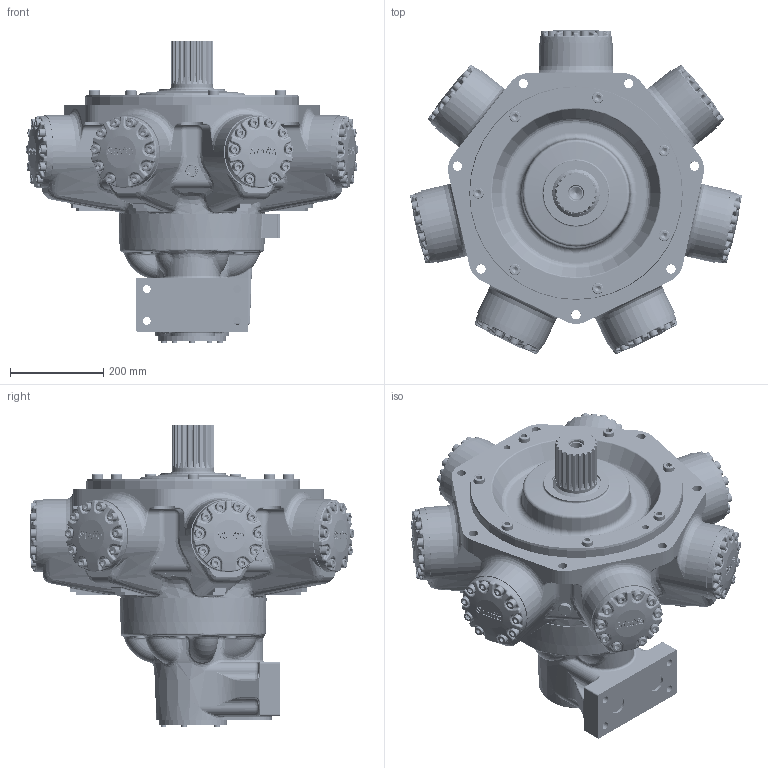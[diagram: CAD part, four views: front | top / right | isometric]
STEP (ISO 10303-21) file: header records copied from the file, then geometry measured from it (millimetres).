
FILE_DESCRIPTION(/* description */ (''),/* implementation_level */ '2;1');
FILE_NAME(/* name */ 'HMC270_Z_SM4_X.stp',/* time_stamp */ '2025-06-16T15:02:14+01:00',/* author */ ('ccallanga'),/* organization */ (''),/* preprocessor_version */ 'ST-DEVELOPER v20',/* originating_system */ 'Autodesk Inventor 2024',/* authorisation */ '');
FILE_SCHEMA (('AUTOMOTIVE_DESIGN { 1 0 10303 214 3 1 1 }'));
Products named in the file (1): 017752 HMC270 Web Assembly_Simplify_1
Bounding box: 711.04 x 695.71 x 648.79 mm (x, y, z)
Volume: 73117109.7 mm3; surface area: 1695579.7 mm2
Topology: 1 solids, 1 shells, 6909 faces, 17014 edges, 10178 vertices
Faces by surface type: bspline 2703, plane 2041, cylinder 1299, torus 523, sphere 176, cone 167
Full cylindrical faces by diameter (mm): 2.2 x4, 11.445 x2, 11.913 x5, 12.7 x5, 14.351 x2, 16.51 x1, 17 x4, 19.05 x70, 20 x7, 20.637 x70, 23.825 x14, 25 x4, 25.4 x14, 26.211 x1, 26.92 x2, 30.48 x1, 38 x2, 38.1 x3, 90 x1, 101.575 x1, 106.68 x1, 139.7 x1, 146.05 x1, 311 x1, 311.15 x1, 457.11 x1
Entity records: 304956 total; most frequent: CARTESIAN_POINT 155370, ORIENTED_EDGE 33420, DIRECTION 23235, EDGE_CURVE 16710, VERTEX_POINT 10178, AXIS2_PLACEMENT_3D 8672, EDGE_LOOP 7306, STYLED_ITEM 6910
